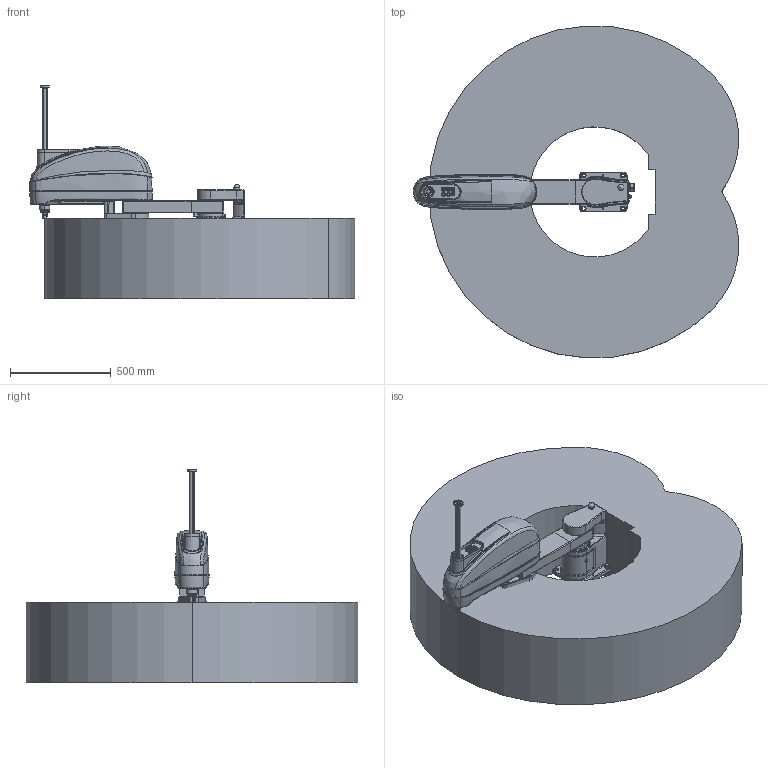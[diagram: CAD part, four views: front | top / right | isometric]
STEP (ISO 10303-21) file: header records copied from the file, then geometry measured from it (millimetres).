
FILE_DESCRIPTION (( 'STEP AP214' ), '1' );
FILE_NAME ('AIR20SC820Z40A 3D model.STP', '2024-02-06T05:36:41', ( 'Windows User' ), ( 'P R C' ), 'SwSTEP 2.0', 'SolidWorks 2011', '' );
FILE_SCHEMA (( 'AUTOMOTIVE_DESIGN' ));
Length unit declared in the file: millimetre
Products named in the file (6): AIR20SC820Z40A-Base; AIR20SC820Z40A 3D model; AIR20SC820Z40A-Upper-arm; AIR20SC820Z40A-Lower-arm; AIR20SC820Z40A-Screw spline; AIR20SC-820Z40A-Working range
Assembly tree (5 placements, depth 2):
  AIR20SC820Z40A 3D model
    AIR20SC820Z40A-Screw spline
    AIR20SC820Z40A-Lower-arm
    AIR20SC820Z40A-Base
    AIR20SC820Z40A-Upper-arm
    AIR20SC-820Z40A-Working range
Bounding box: 1617.07 x 1647.4 x 1060 mm (x, y, z)
Volume: 728574488.1 mm3; surface area: 8019147.2 mm2
Topology: 54 solids, 68 shells, 4061 faces, 9878 edges, 6222 vertices
Faces by surface type: plane 1680, cylinder 1337, cone 587, bspline 345, torus 97, sphere 15
Entity records: 193950 total; most frequent: CARTESIAN_POINT 74229, DIRECTION 19796, ORIENTED_EDGE 19488, EDGE_CURVE 9744, AXIS2_PLACEMENT_3D 7502, VERTEX_POINT 6208, LINE 4792, VECTOR 4792
